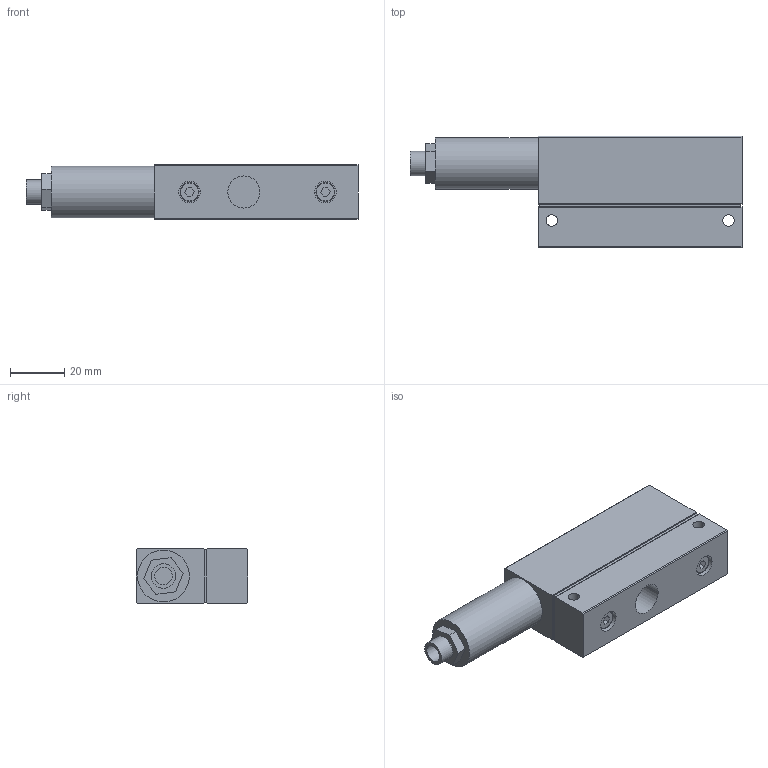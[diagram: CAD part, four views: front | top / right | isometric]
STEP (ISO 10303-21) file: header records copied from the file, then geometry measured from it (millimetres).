
FILE_DESCRIPTION (( 'STEP AP214' ), '1' );
FILE_NAME ('DSV-255-UPDATED.STEP', '2025-09-15T18:15:54', ( '' ), ( '' ), 'SwSTEP 2.0', 'SolidWorks 2025', '' );
FILE_SCHEMA (( 'AUTOMOTIVE_DESIGN' ));
Length unit declared in the file: inch
Products named in the file (3): GS-ST14; DSV-255-UPDATED; DSV-XXX SALES VERSION
Assembly tree (2 placements, depth 2):
  DSV-255-UPDATED
    DSV-XXX SALES VERSION
    GS-ST14
Bounding box: 122.2 x 41 x 20 mm (x, y, z)
Volume: 66900 mm3; surface area: 18751.9 mm2
Topology: 9 solids, 9 shells, 136 faces, 301 edges, 197 vertices
Faces by surface type: plane 81, cylinder 47, bspline 4, cone 4
Full cylindrical faces by diameter (mm): 8.95 x1, 12.6 x1, 19.1 x1
Entity records: 4120 total; most frequent: CARTESIAN_POINT 873, DIRECTION 657, ORIENTED_EDGE 592, EDGE_CURVE 296, AXIS2_PLACEMENT_3D 234, VERTEX_POINT 196, LINE 189, VECTOR 189
